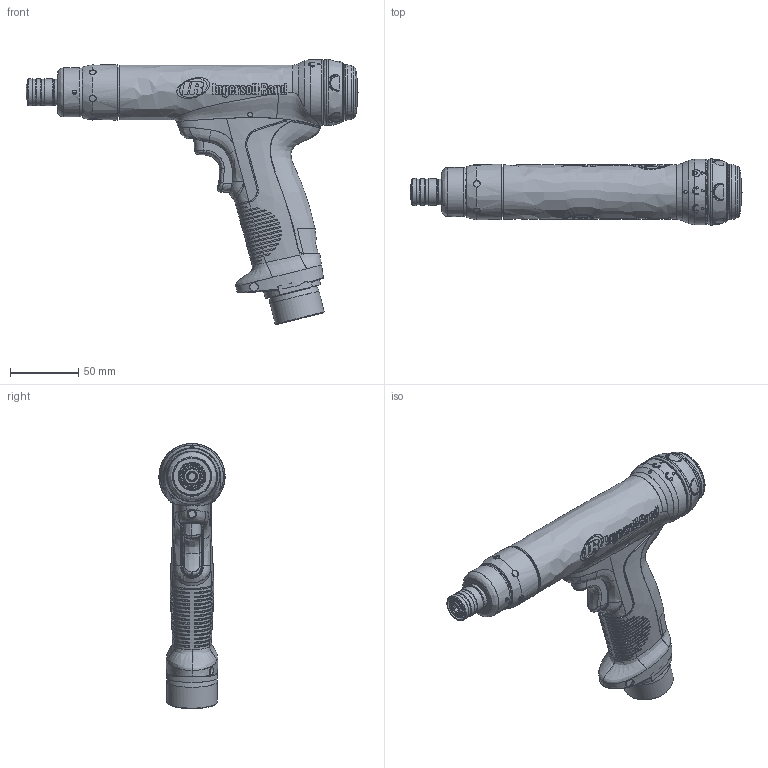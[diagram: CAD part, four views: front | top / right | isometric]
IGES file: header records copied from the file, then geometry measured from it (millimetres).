
Global section: file name: C:\Documents and Settings\jchellew\Desktop\QE4 Pistol\QE4 Pistol\QE4PT010P10Q04.igs; native system: NX V4.0; preprocessor: UGS NX IGES V4.0; date: 20071113.161839; units: millimetre
Bounding box: 243.48 x 48.5 x 194.52 mm (x, y, z)
Surface area: 75675.3 mm2 (no closed solid volume)
Topology: 0 solids, 0 shells, 1689 faces, 12187 edges, 12034 vertices
Faces by surface type: bspline 1604, offset 85
